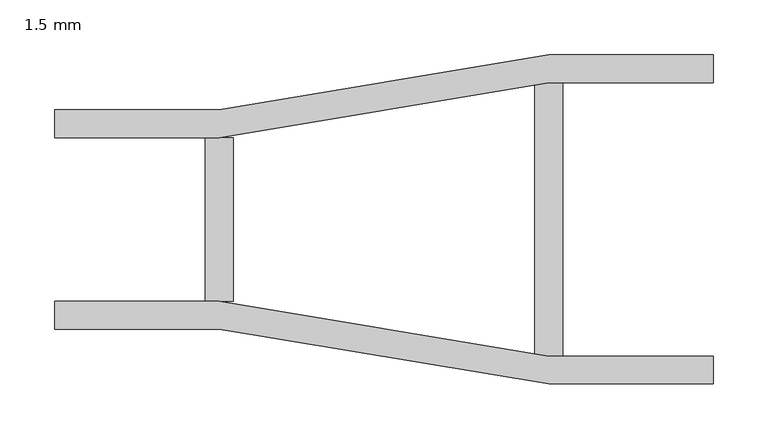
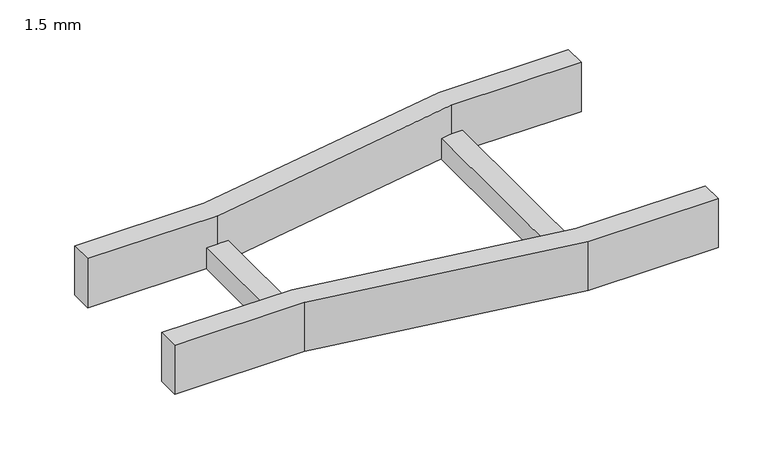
"""IFC4 building model written with IfcOpenShell, lengths in millimetres: cable carrier fitting geometry, BAKS_Redukcja_drabiny E90 : 1.5 mm."""

from ifc_helpers import new_model, si_unit, frame, origin, place, context, project, spatial, polyline, outline, extrude, source, transform, mapped, element, save


def cable_carrier_fitting_1_5_mm_c053843e(model_context):
    return source(origin(), model_context, "Body", "SweptSolid", [
        extrude(outline(polyline([(0.0, -100.0), (0.0, -74.6), (150.0, -74.6), (450.0, -124.6), (600.0, -124.6), (600.0, -150.0), (450.0, -150.0), (150.0, -100.0), (0.0, -100.0)])), frame((0.0, 0.0, -30.0), z_axis=(0.0, 0.0, 1.0), x_axis=(1.0, 0.0, 0.0)), (0.0, 0.0, 1.0), 60.0),
        extrude(outline(polyline([(0.0, 74.6), (0.0, 100.0), (150.0, 100.0), (450.0, 150.0), (600.0, 150.0), (600.0, 124.6), (450.0, 124.6), (150.0, 74.6), (0.0, 74.6)])), frame((0.0, 0.0, -30.0), z_axis=(0.0, 0.0, 1.0), x_axis=(1.0, 0.0, 0.0)), (0.0, 0.0, 1.0), 60.0),
        extrude(outline(polyline([(437.3, 124.6), (462.7, 124.6), (462.7, -124.6), (437.3, -124.6), (437.3, 124.6)])), frame((0.0, 0.0, -30.0), z_axis=(0.0, 0.0, 1.0), x_axis=(1.0, 0.0, 0.0)), (0.0, 0.0, 1.0), 25.4),
        extrude(outline(polyline([(137.3, 74.6), (162.7, 74.6), (162.7, -74.6), (137.3, -74.6), (137.3, 74.6)])), frame((0.0, 0.0, -30.0), z_axis=(0.0, 0.0, 1.0), x_axis=(1.0, 0.0, 0.0)), (0.0, 0.0, 1.0), 25.4),
    ])


if __name__ == "__main__":
    model = new_model("IFC4")
    model_context = context("Model", 3, world=origin())
    ifc_project = project(units=[si_unit("LENGTHUNIT", "METRE", prefix="MILLI")], contexts=[model_context])
    site = spatial("IfcSite", under=ifc_project)
    building = spatial("IfcBuilding", under=site)
    placement = place(None, origin())
    cable_carrier_fitting_1_5_mm_shape = cable_carrier_fitting_1_5_mm_c053843e(model_context)
    element("IfcCableCarrierFitting", 1, ObjectType="BAKS_Redukcja_drabiny E90 : 1.5 mm", at=placement, inside=building, context=model_context, shape_type="MappedRepresentation", body=[
        mapped(cable_carrier_fitting_1_5_mm_shape, transform((0.0, 0.0, 0.0), x_axis=(1.0, 0.0, 0.0), y_axis=(0.0, 1.0, 0.0), z_axis=(0.0, 0.0, 1.0))),
    ])
    save(model, "model.ifc")
